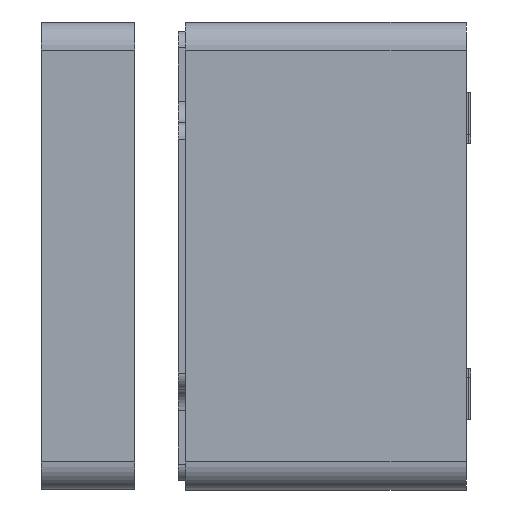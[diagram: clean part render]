
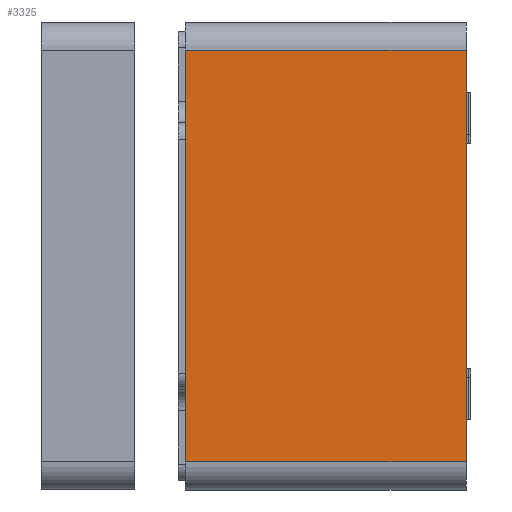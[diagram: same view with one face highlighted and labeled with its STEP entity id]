
A CAD part, left-side view. The second image highlights one B-rep face of the part: STEP entity #3325.
In plain terms, the highlighted planar face has unit normal (-1, 0, 0).
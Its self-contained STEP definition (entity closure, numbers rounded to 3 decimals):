
#399 = LINE ( 'NONE', #10825, #15850 ) ;
#480 = EDGE_CURVE ( 'NONE', #20326, #26084, #14682, .T. ) ;
#1763 = VECTOR ( 'NONE', #4869, 1000. ) ;
#2769 = ORIENTED_EDGE ( 'NONE', *, *, #24042, .T. ) ;
#3064 = LINE ( 'NONE', #11344, #12598 ) ;
#3136 = PLANE ( 'NONE',  #8988 ) ;
#3325 = ADVANCED_FACE ( 'NONE', ( #19570 ), #3136, .F. ) ;
#3521 = DIRECTION ( 'NONE',  ( 0., 0., -1. ) ) ;
#4869 = DIRECTION ( 'NONE',  ( 0., 0., 1. ) ) ;
#5466 = CARTESIAN_POINT ( 'NONE',  ( -80., 60., -44. ) ) ;
#7057 = DIRECTION ( 'NONE',  ( 1., 0., 0. ) ) ;
#7254 = DIRECTION ( 'NONE',  ( 0., 0., 1. ) ) ;
#8988 = AXIS2_PLACEMENT_3D ( 'NONE', #17797, #7057, #3521 ) ;
#10110 = EDGE_CURVE ( 'NONE', #26084, #15679, #3064, .T. ) ;
#10270 = CARTESIAN_POINT ( 'NONE',  ( -80., 60., 44. ) ) ;
#10825 = CARTESIAN_POINT ( 'NONE',  ( -80., 60., 44. ) ) ;
#11344 = CARTESIAN_POINT ( 'NONE',  ( -80., 0., -50. ) ) ;
#12176 = ORIENTED_EDGE ( 'NONE', *, *, #15481, .F. ) ;
#12598 = VECTOR ( 'NONE', #7254, 1000. ) ;
#14335 = VECTOR ( 'NONE', #22970, 1000. ) ;
#14682 = LINE ( 'NONE', #14953, #14335 ) ;
#14953 = CARTESIAN_POINT ( 'NONE',  ( -80., 60., -44. ) ) ;
#15481 = EDGE_CURVE ( 'NONE', #20326, #16824, #25675, .T. ) ;
#15610 = CARTESIAN_POINT ( 'NONE',  ( -80., 0., 44. ) ) ;
#15679 = VERTEX_POINT ( 'NONE', #15610 ) ;
#15850 = VECTOR ( 'NONE', #24877, 1000. ) ;
#16824 = VERTEX_POINT ( 'NONE', #10270 ) ;
#17797 = CARTESIAN_POINT ( 'NONE',  ( -80., 60., -50. ) ) ;
#19545 = CARTESIAN_POINT ( 'NONE',  ( -80., 60., -50. ) ) ;
#19570 = FACE_OUTER_BOUND ( 'NONE', #22830, .T. ) ;
#19631 = ORIENTED_EDGE ( 'NONE', *, *, #480, .T. ) ;
#19774 = CARTESIAN_POINT ( 'NONE',  ( -80., 0., -44. ) ) ;
#20326 = VERTEX_POINT ( 'NONE', #5466 ) ;
#22830 = EDGE_LOOP ( 'NONE', ( #25161, #2769, #12176, #19631 ) ) ;
#22970 = DIRECTION ( 'NONE',  ( 0., -1., 0. ) ) ;
#24042 = EDGE_CURVE ( 'NONE', #15679, #16824, #399, .T. ) ;
#24877 = DIRECTION ( 'NONE',  ( 0., 1., 0. ) ) ;
#25161 = ORIENTED_EDGE ( 'NONE', *, *, #10110, .T. ) ;
#25675 = LINE ( 'NONE', #19545, #1763 ) ;
#26084 = VERTEX_POINT ( 'NONE', #19774 ) ;
